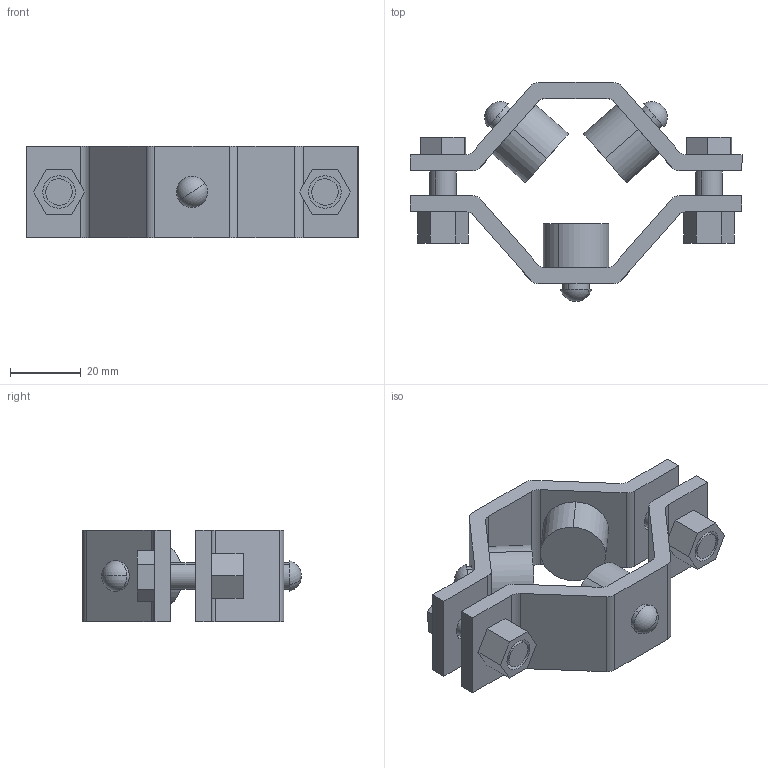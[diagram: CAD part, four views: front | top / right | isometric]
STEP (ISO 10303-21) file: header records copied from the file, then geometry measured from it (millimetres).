
FILE_DESCRIPTION (( 'STEP AP214' ), '1' );
FILE_NAME ('E24 0.75.STEP', '2025-07-16T18:10:36', ( '' ), ( '' ), 'SwSTEP 2.0', 'SolidWorks 2022', '' );
FILE_SCHEMA (( 'AUTOMOTIVE_DESIGN' ));
Length unit declared in the file: inch
Products named in the file (6): E24NUT; E24BOLT; E24GROMMET 0.75; E24 0.75; E24-2HOLE 0.75; E24-1HOLE 0.75
Assembly tree (9 placements, depth 2):
  E24 0.75
    E24-1HOLE 0.75
    E24-2HOLE 0.75
    E24BOLT  x2
    E24GROMMET 0.75  x3
    E24NUT  x2
Bounding box: 94.01 x 62 x 26.01 mm (x, y, z)
Volume: 41015.6 mm3; surface area: 22364.8 mm2
Topology: 9 solids, 9 shells, 133 faces, 318 edges, 213 vertices
Faces by surface type: plane 73, cylinder 54, sphere 6
Entity records: 3116 total; most frequent: DIRECTION 522, CARTESIAN_POINT 490, ORIENTED_EDGE 464, EDGE_CURVE 232, AXIS2_PLACEMENT_3D 187, VERTEX_POINT 155, LINE 148, VECTOR 148
